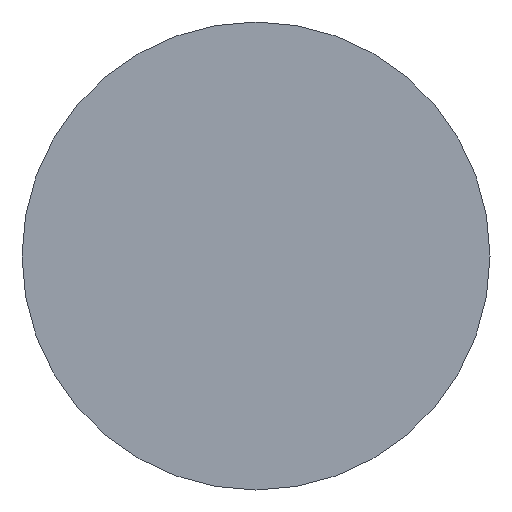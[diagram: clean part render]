
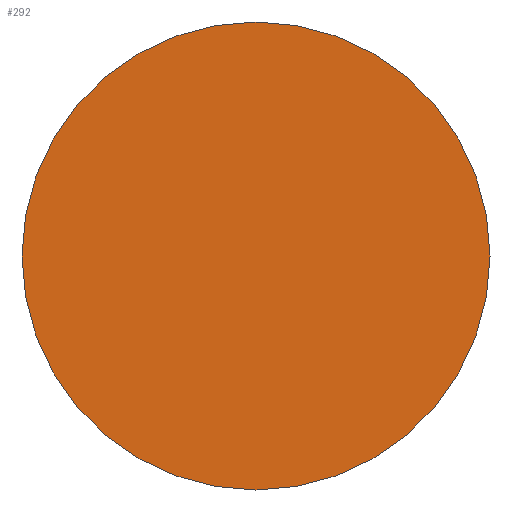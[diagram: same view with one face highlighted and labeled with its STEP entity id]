
A CAD part, left-side view. The second image highlights one B-rep face of the part: STEP entity #292.
In plain terms, the highlighted planar face has unit normal (-1, 0, 0).
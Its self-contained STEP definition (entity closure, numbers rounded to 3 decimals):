
#3 = DIRECTION ( 'NONE',  ( 0., 0., 1. ) ) ;
#10 = CARTESIAN_POINT ( 'NONE',  ( 0., 0., 0. ) ) ;
#25 = AXIS2_PLACEMENT_3D ( 'NONE', #189, #252, #131 ) ;
#29 = PLANE ( 'NONE',  #25 ) ;
#41 = EDGE_CURVE ( 'NONE', #76, #276, #82, .T. ) ;
#68 = AXIS2_PLACEMENT_3D ( 'NONE', #10, #214, #3 ) ;
#76 = VERTEX_POINT ( 'NONE', #221 ) ;
#82 = CIRCLE ( 'NONE', #68, 1.5 ) ;
#108 = ORIENTED_EDGE ( 'NONE', *, *, #41, .T. ) ;
#129 = CARTESIAN_POINT ( 'NONE',  ( 0., 0., -1.5 ) ) ;
#131 = DIRECTION ( 'NONE',  ( 0., 0., -1. ) ) ;
#134 = ORIENTED_EDGE ( 'NONE', *, *, #278, .T. ) ;
#170 = DIRECTION ( 'NONE',  ( 0., 0., 1. ) ) ;
#189 = CARTESIAN_POINT ( 'NONE',  ( 0., 0., 0. ) ) ;
#214 = DIRECTION ( 'NONE',  ( -1., 0., 0. ) ) ;
#218 = DIRECTION ( 'NONE',  ( -1., 0., 0. ) ) ;
#221 = CARTESIAN_POINT ( 'NONE',  ( 0., 0., 1.5 ) ) ;
#232 = CARTESIAN_POINT ( 'NONE',  ( 0., 0., 0. ) ) ;
#250 = EDGE_LOOP ( 'NONE', ( #108, #134 ) ) ;
#252 = DIRECTION ( 'NONE',  ( 1., 0., 0. ) ) ;
#254 = FACE_OUTER_BOUND ( 'NONE', #250, .T. ) ;
#263 = AXIS2_PLACEMENT_3D ( 'NONE', #232, #218, #170 ) ;
#276 = VERTEX_POINT ( 'NONE', #129 ) ;
#278 = EDGE_CURVE ( 'NONE', #276, #76, #286, .T. ) ;
#286 = CIRCLE ( 'NONE', #263, 1.5 ) ;
#292 = ADVANCED_FACE ( 'NONE', ( #254 ), #29, .F. ) ;
